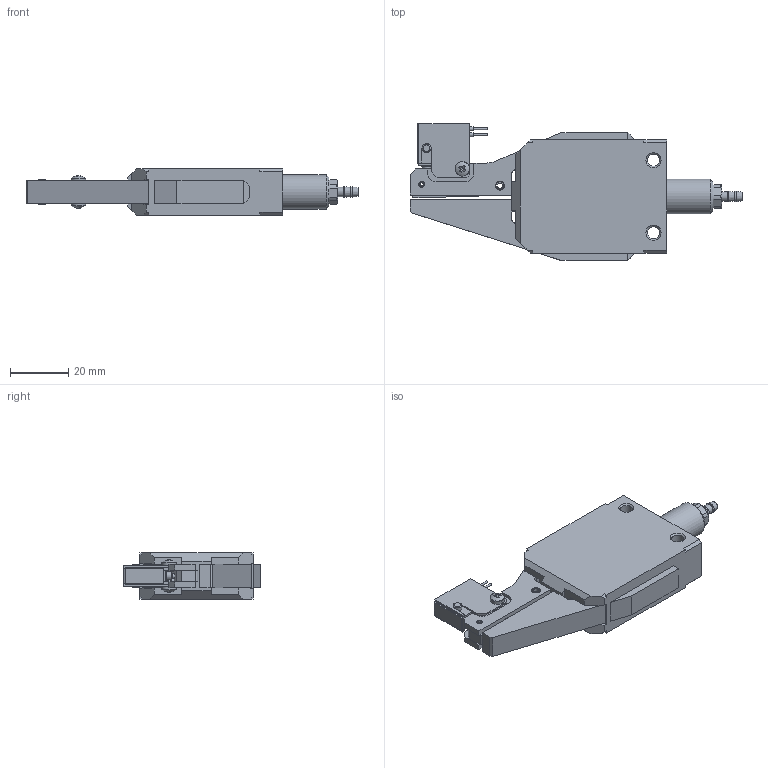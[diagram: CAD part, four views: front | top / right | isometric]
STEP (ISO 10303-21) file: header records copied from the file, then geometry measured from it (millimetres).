
FILE_DESCRIPTION (( 'STEP AP203' ), '1' );
FILE_NAME ('CHK-EL1-12-C.STEP', '2019-08-21T09:22:53', ( '' ), ( '' ), 'SwSTEP 2.0', 'SolidWorks 2018', '' );
FILE_SCHEMA (( 'CONFIG_CONTROL_DESIGN' ));
Length unit declared in the file: millimetre
Products named in the file (2): CHK-EL1-12-C
Bounding box: 114.43 x 47.1 x 16 mm (x, y, z)
Volume: 40562.1 mm3; surface area: 16167.7 mm2
Topology: 9 solids, 9 shells, 381 faces, 984 edges, 624 vertices
Faces by surface type: plane 240, cylinder 84, cone 41, torus 9, sphere 5, bspline 2
Full cylindrical faces by diameter (mm): 0.7 x2, 1.4 x2, 1.9 x1, 2 x3, 2.05 x1, 2.1 x1, 2.5 x2, 2.9 x1, 3 x6, 3.2 x1, 3.25 x1, 3.3 x1, 3.5 x1, 3.6 x2, 4.2 x3, 5 x4, 5.2 x1, 12 x1
Entity records: 11336 total; most frequent: CARTESIAN_POINT 2134, DIRECTION 1883, ORIENTED_EDGE 1800, EDGE_CURVE 900, AXIS2_PLACEMENT_3D 654, VERTEX_POINT 601, VECTOR 575, LINE 575
